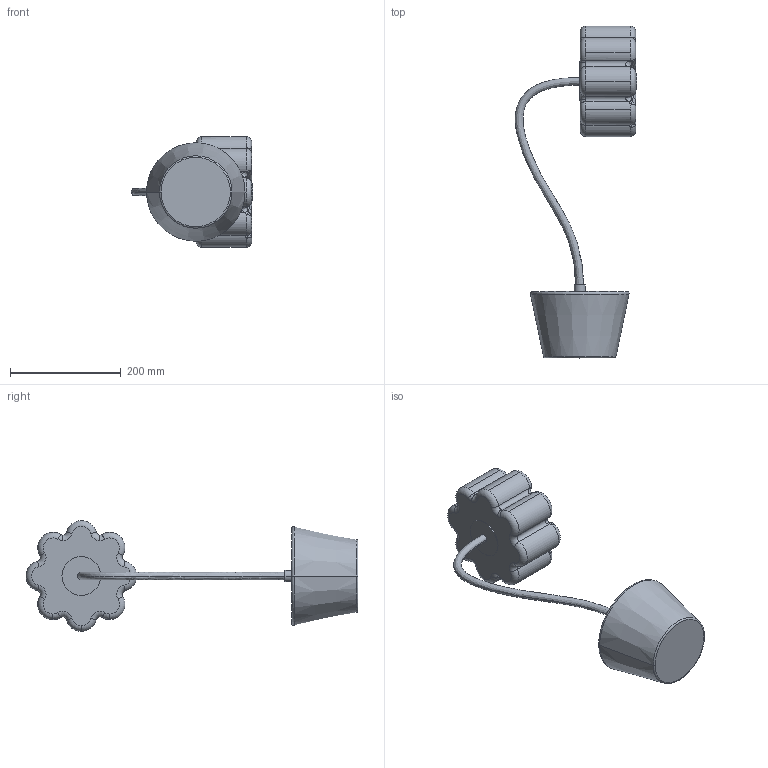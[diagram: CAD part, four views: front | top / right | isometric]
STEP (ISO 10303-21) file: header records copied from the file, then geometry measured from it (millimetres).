
FILE_DESCRIPTION (( 'STEP AP214' ), '1' );
FILE_NAME ('FLOW_S1339.STEP', '2024-11-19T14:34:17', ( '' ), ( '' ), 'SwSTEP 2.0', 'SolidWorks 2018', '' );
FILE_SCHEMA (( 'AUTOMOTIVE_DESIGN' ));
Length unit declared in the file: millimetre
Products named in the file (3): estructura sobremesa; DEFITULIPA; FLOW_S1339
Assembly tree (2 placements, depth 2):
  FLOW_S1339
    estructura sobremesa
    DEFITULIPA
Bounding box: 219.55 x 600 x 200 mm (x, y, z)
Volume: 5014101.7 mm3; surface area: 247478.9 mm2
Topology: 6 solids, 6 shells, 169 faces, 385 edges, 228 vertices
Faces by surface type: bspline 42, torus 36, plane 28, cylinder 27, cone 18, sphere 18
Entity records: 8415 total; most frequent: CARTESIAN_POINT 4104, ORIENTED_EDGE 770, DIRECTION 693, EDGE_CURVE 385, AXIS2_PLACEMENT_3D 324, VERTEX_POINT 228, CIRCLE 192, FACE_OUTER_BOUND 169
